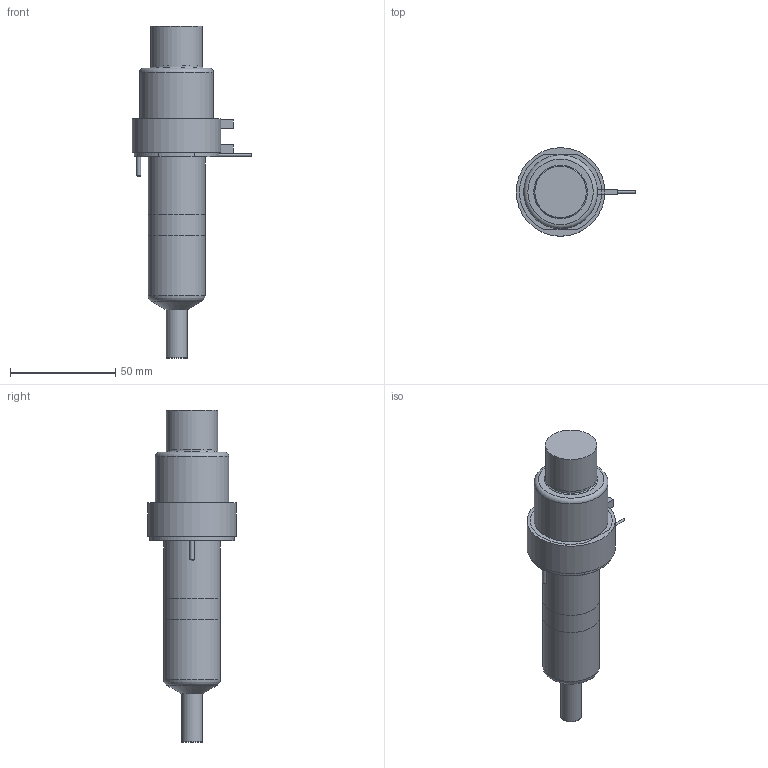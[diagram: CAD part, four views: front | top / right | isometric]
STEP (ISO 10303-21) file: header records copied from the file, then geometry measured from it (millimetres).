
FILE_DESCRIPTION(/* description */ (''),/* implementation_level */ '2;1');
FILE_NAME(/* name */ 'SXYCN13075P4F_200C_a',/* time_stamp */ '2016-03-03T16:49:09+13:00',/* author */ (''),/* organization */ (''),/* preprocessor_version */ 'ST-DEVELOPER v9',/* originating_system */ 'UGS - NX 4.0',/* authorisation */ '');
FILE_SCHEMA (('CONFIG_CONTROL_DESIGN'));
Length unit declared in the file: millimetre
Products named in the file (1): matt9EABfnfo
Bounding box: 56.65 x 42 x 157.47 mm (x, y, z)
Volume: 171998.7 mm3; surface area: 32045 mm2
Topology: 7 solids, 7 shells, 91 faces, 175 edges, 112 vertices
Faces by surface type: plane 45, cylinder 29, torus 8, cone 7, bspline 1, sphere 1
Full cylindrical faces by diameter (mm): 1 x3, 1.8 x1, 2 x2, 4 x1, 6 x1, 9.61 x1, 9.995 x2, 12.6 x1, 22.2 x1, 24 x1, 24.4 x1, 27 x2, 31.8 x1, 35 x1, 40 x1, 42 x1
Entity records: 2230 total; most frequent: CARTESIAN_POINT 435, DIRECTION 378, ORIENTED_EDGE 266, AXIS2_PLACEMENT_3D 164, EDGE_LOOP 140, EDGE_CURVE 133, VERTEX_POINT 106, ADVANCED_FACE 91
